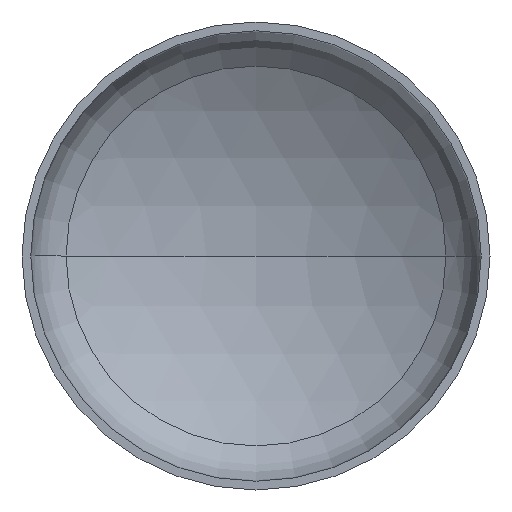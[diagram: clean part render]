
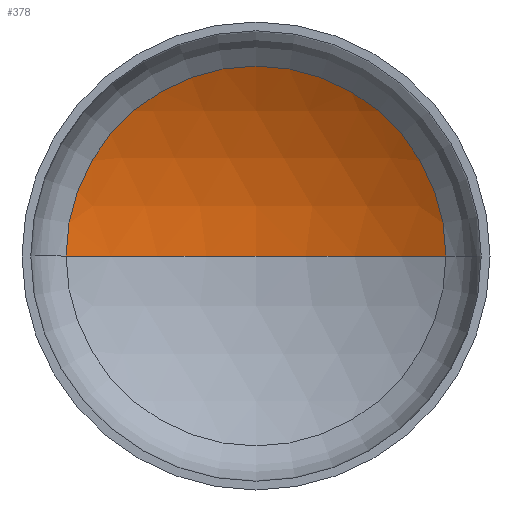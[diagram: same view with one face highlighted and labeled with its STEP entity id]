
A CAD part, front view. The second image highlights one B-rep face of the part: STEP entity #378.
In plain terms, the highlighted spherical face has radius 1280 mm.
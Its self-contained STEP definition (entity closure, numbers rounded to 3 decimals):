
#10 = AXIS2_PLACEMENT_3D ( 'NONE', #154, #143, #380 ) ;
#12 = EDGE_LOOP ( 'NONE', ( #136, #94, #88 ) ) ;
#37 = CARTESIAN_POINT ( 'NONE',  ( 0., -801.964, 0. ) ) ;
#40 = VERTEX_POINT ( 'NONE', #360 ) ;
#43 = VERTEX_POINT ( 'NONE', #246 ) ;
#56 = AXIS2_PLACEMENT_3D ( 'NONE', #273, #272, #238 ) ;
#58 = AXIS2_PLACEMENT_3D ( 'NONE', #37, #82, #78 ) ;
#62 = AXIS2_PLACEMENT_3D ( 'NONE', #202, #203, #223 ) ;
#78 = DIRECTION ( 'NONE',  ( 1., 0., 0. ) ) ;
#82 = DIRECTION ( 'NONE',  ( 0., 0., 1. ) ) ;
#83 = VERTEX_POINT ( 'NONE', #241 ) ;
#88 = ORIENTED_EDGE ( 'NONE', *, *, #181, .T. ) ;
#94 = ORIENTED_EDGE ( 'NONE', *, *, #201, .T. ) ;
#136 = ORIENTED_EDGE ( 'NONE', *, *, #224, .F. ) ;
#143 = DIRECTION ( 'NONE',  ( 0., 0., -1. ) ) ;
#154 = CARTESIAN_POINT ( 'NONE',  ( 0., -801.964, 0. ) ) ;
#166 = CIRCLE ( 'NONE', #56, 1280. ) ;
#181 = EDGE_CURVE ( 'NONE', #83, #40, #293, .T. ) ;
#201 = EDGE_CURVE ( 'NONE', #43, #83, #166, .T. ) ;
#202 = CARTESIAN_POINT ( 'NONE',  ( 0., 301.141, 0. ) ) ;
#203 = DIRECTION ( 'NONE',  ( 0., -1., 0. ) ) ;
#223 = DIRECTION ( 'NONE',  ( 1., 0., 0. ) ) ;
#224 = EDGE_CURVE ( 'NONE', #43, #40, #351, .T. ) ;
#238 = DIRECTION ( 'NONE',  ( -1., 0., 0. ) ) ;
#241 = CARTESIAN_POINT ( 'NONE',  ( 649.275, 301.141, 0. ) ) ;
#246 = CARTESIAN_POINT ( 'NONE',  ( 0., 478.036, 0. ) ) ;
#256 = SPHERICAL_SURFACE ( 'NONE', #10, 1280. ) ;
#272 = DIRECTION ( 'NONE',  ( 0., 0., -1. ) ) ;
#273 = CARTESIAN_POINT ( 'NONE',  ( 0., -801.964, 0. ) ) ;
#293 = CIRCLE ( 'NONE', #62, 649.275 ) ;
#332 = FACE_OUTER_BOUND ( 'NONE', #12, .T. ) ;
#351 = CIRCLE ( 'NONE', #58, 1280. ) ;
#360 = CARTESIAN_POINT ( 'NONE',  ( -649.275, 301.141, 0. ) ) ;
#378 = ADVANCED_FACE ( 'NONE', ( #332 ), #256, .F. ) ;
#380 = DIRECTION ( 'NONE',  ( -1., 0., 0. ) ) ;
